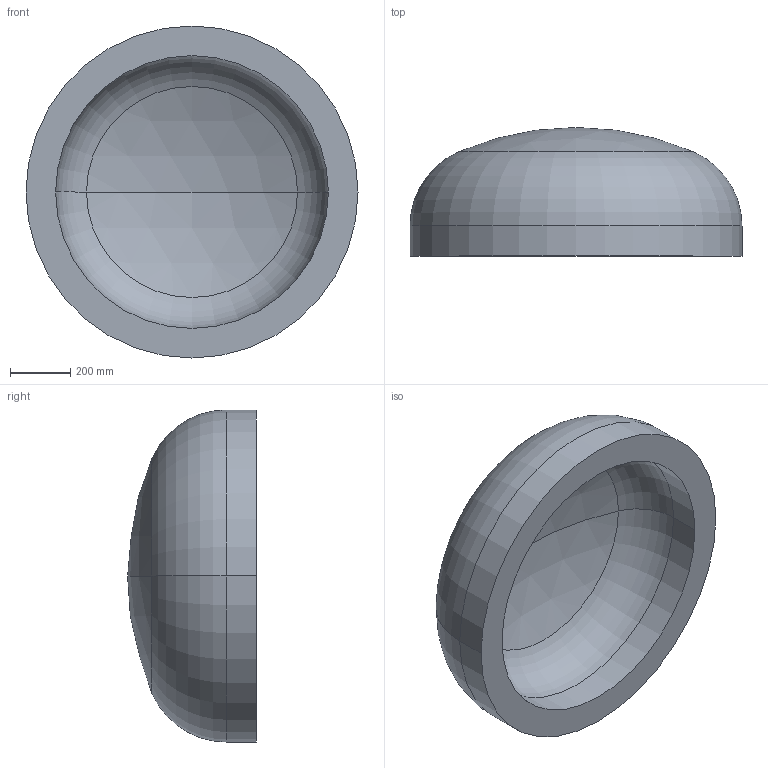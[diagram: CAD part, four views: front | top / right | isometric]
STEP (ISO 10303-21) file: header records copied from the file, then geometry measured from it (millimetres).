
FILE_DESCRIPTION (( 'STEP AP203' ), '1' );
FILE_NAME ('DIN 28013 Korbbogenform_-_Boden DIN 28013 - 1100 x 100 - I - s=98.step', '2016-07-01T09:15:48', ( '' ), ( '' ), 'SwSTEP 2.0', 'SolidWorks 2013', '' );
FILE_SCHEMA (( 'CONFIG_CONTROL_DESIGN' ));
Length unit declared in the file: millimetre
Products named in the file (1): DIN 28013 Korbbogenform_-_Boden DIN 28013 - 1100 x 100 - I - s=98
Bounding box: 1100 x 426.4 x 1100 mm (x, y, z)
Volume: 146361047 mm3; surface area: 3315566 mm2
Topology: 1 solids, 1 shells, 13 faces, 24 edges, 14 vertices
Faces by surface type: torus 4, cylinder 4, sphere 4, plane 1
Entity records: 407 total; most frequent: DIRECTION 72, CARTESIAN_POINT 52, ORIENTED_EDGE 48, AXIS2_PLACEMENT_3D 34, EDGE_CURVE 24, CIRCLE 20, VERTEX_POINT 14, EDGE_LOOP 14
